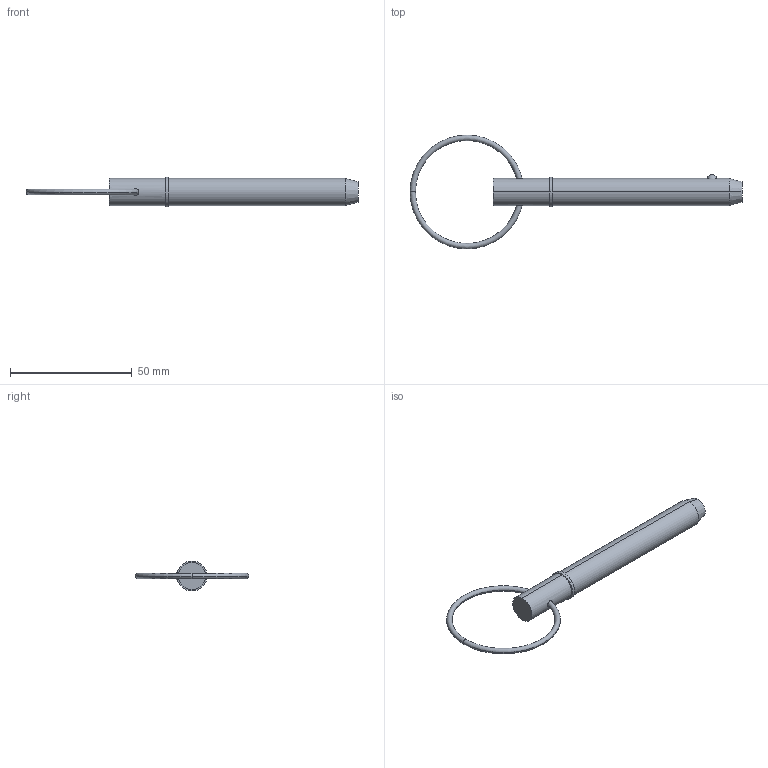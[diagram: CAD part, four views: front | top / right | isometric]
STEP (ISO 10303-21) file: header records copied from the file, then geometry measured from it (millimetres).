
FILE_DESCRIPTION (( 'STEP AP203' ), '1' );
FILE_NAME ('33016.W4325.step', '2024-11-07T11:07:14', ( '' ), ( '' ), 'SwSTEP 2.0', 'SolidWorks 2019', '' );
FILE_SCHEMA (( 'CONFIG_CONTROL_DESIGN' ));
Length unit declared in the file: millimetre
Products named in the file (3): 33016.W4325; Part2_33016.W4325; Part1_33016.W4325
Assembly tree (2 placements, depth 2):
  33016.W4325
    Part1_33016.W4325
    Part2_33016.W4325
Bounding box: 136.12 x 46.67 x 12.22 mm (x, y, z)
Volume: 10272 mm3; surface area: 4803 mm2
Topology: 2 solids, 2 shells, 22 faces, 43 edges, 26 vertices
Faces by surface type: torus 8, cylinder 6, plane 4, sphere 2, cone 2
Entity records: 1023 total; most frequent: CARTESIAN_POINT 246, DIRECTION 120, ORIENTED_EDGE 86, AXIS2_PLACEMENT_3D 56, EDGE_CURVE 43, CIRCLE 29, EDGE_LOOP 27, PERSON_AND_ORGANIZATION 26
